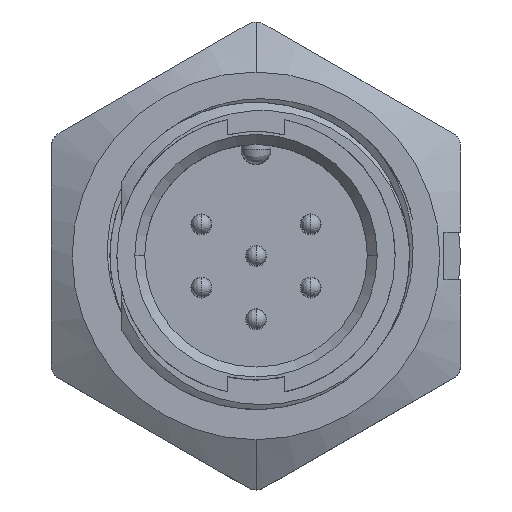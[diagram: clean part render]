
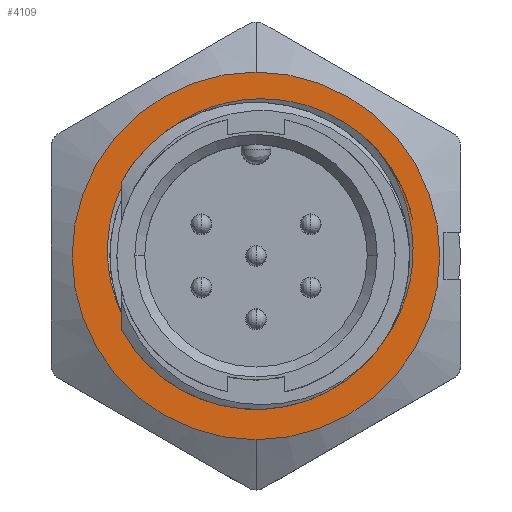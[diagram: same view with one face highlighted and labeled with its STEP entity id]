
A CAD part, top view. The second image highlights one B-rep face of the part: STEP entity #4109.
In plain terms, the highlighted planar face has unit normal (0, 0, 1).
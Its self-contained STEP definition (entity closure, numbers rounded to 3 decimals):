
#54 = CARTESIAN_POINT ( 'NONE',  ( 7.879, 1.35, -6.1 ) ) ;
#93 = VERTEX_POINT ( 'NONE', #1977 ) ;
#278 = CARTESIAN_POINT ( 'NONE',  ( 7.706, 2.251, -6.1 ) ) ;
#323 = EDGE_CURVE ( 'NONE', #93, #13420, #11059, .T. ) ;
#357 = CARTESIAN_POINT ( 'NONE',  ( 7.06, 3.95, -6.1 ) ) ;
#375 = DIRECTION ( 'NONE',  ( 0., 0., 1. ) ) ;
#493 = ORIENTED_EDGE ( 'NONE', *, *, #11031, .F. ) ;
#907 = ORIENTED_EDGE ( 'NONE', *, *, #323, .F. ) ;
#1079 = CARTESIAN_POINT ( 'NONE',  ( -7.483, 1.038, -6.1 ) ) ;
#1114 = CARTESIAN_POINT ( 'NONE',  ( -5.32, -5.077, -6.1 ) ) ;
#1188 = CARTESIAN_POINT ( 'NONE',  ( -3.938, -6.207, -6.1 ) ) ;
#1193 = CARTESIAN_POINT ( 'NONE',  ( 7.228, -3.031, -6.1 ) ) ;
#1344 = CARTESIAN_POINT ( 'NONE',  ( 7.921, -0.448, -6.1 ) ) ;
#1355 = EDGE_LOOP ( 'NONE', ( #10742, #493 ) ) ;
#1468 = CARTESIAN_POINT ( 'NONE',  ( -7.521, 0.176, -6.1 ) ) ;
#1551 = CARTESIAN_POINT ( 'NONE',  ( -7.058, -2.317, -6.1 ) ) ;
#1830 = EDGE_LOOP ( 'NONE', ( #11164, #3121, #1858, #907 ) ) ;
#1858 = ORIENTED_EDGE ( 'NONE', *, *, #12887, .T. ) ;
#1962 = DIRECTION ( 'NONE',  ( 1., 0., 0. ) ) ;
#1977 = CARTESIAN_POINT ( 'NONE',  ( -2.967, -6.725, -6.1 ) ) ;
#2248 = CARTESIAN_POINT ( 'NONE',  ( 5.992, 5.451, -6.1 ) ) ;
#2669 = CARTESIAN_POINT ( 'NONE',  ( 5.732, -5.207, -6.1 ) ) ;
#3044 = CARTESIAN_POINT ( 'NONE',  ( 0., 0., -6.1 ) ) ;
#3107 = CARTESIAN_POINT ( 'NONE',  ( 5.468, 5.983, -6.1 ) ) ;
#3121 = ORIENTED_EDGE ( 'NONE', *, *, #10723, .F. ) ;
#3247 = CARTESIAN_POINT ( 'NONE',  ( 3.849, 7.115, -6.1 ) ) ;
#3325 = CARTESIAN_POINT ( 'NONE',  ( 2.14, 7.737, -6.1 ) ) ;
#3384 = DIRECTION ( 'NONE',  ( -1., 0., 0. ) ) ;
#3402 = CARTESIAN_POINT ( 'NONE',  ( -1.455, 7.766, -6.1 ) ) ;
#3441 = CARTESIAN_POINT ( 'NONE',  ( -4.029, -6.148, -6.1 ) ) ;
#3524 = CARTESIAN_POINT ( 'NONE',  ( -4.494, -5.834, -6.1 ) ) ;
#3598 = CARTESIAN_POINT ( 'NONE',  ( -5.759, -4.569, -6.1 ) ) ;
#3765 = VERTEX_POINT ( 'NONE', #11357 ) ;
#3911 = CARTESIAN_POINT ( 'NONE',  ( 7.786, -1.344, -6.1 ) ) ;
#4109 = ADVANCED_FACE ( 'NONE', ( #12138, #10977 ), #6252, .T. ) ;
#4211 = CARTESIAN_POINT ( 'NONE',  ( 5.797, 5.667, -6.1 ) ) ;
#4359 = CARTESIAN_POINT ( 'NONE',  ( 5.899, 5.559, -6.1 ) ) ;
#4566 = CARTESIAN_POINT ( 'NONE',  ( -5.876, 4.994, -6.1 ) ) ;
#4603 = CARTESIAN_POINT ( 'NONE',  ( -3.465, -6.489, -6.1 ) ) ;
#5363 = CARTESIAN_POINT ( 'NONE',  ( 5.576, 5.885, -6.1 ) ) ;
#5837 = CARTESIAN_POINT ( 'NONE',  ( -6.279, -3.846, -6.1 ) ) ;
#5907 = DIRECTION ( 'NONE',  ( 0., 0., -1. ) ) ;
#5919 = CARTESIAN_POINT ( 'NONE',  ( -3.75, -6.322, -6.1 ) ) ;
#5924 = CARTESIAN_POINT ( 'NONE',  ( 0.283, -7.518, -6.1 ) ) ;
#6233 = CARTESIAN_POINT ( 'NONE',  ( 5.992, 5.451, -6.1 ) ) ;
#6252 = PLANE ( 'NONE',  #6634 ) ;
#6267 = CARTESIAN_POINT ( 'NONE',  ( -6.682, -3.063, -6.1 ) ) ;
#6360 = CARTESIAN_POINT ( 'NONE',  ( 5.365, 6.07, -6.1 ) ) ;
#6486 = EDGE_CURVE ( 'NONE', #3765, #12431, #11108, .T. ) ;
#6529 = CARTESIAN_POINT ( 'NONE',  ( 5.365, 6.07, -6.1 ) ) ;
#6634 = AXIS2_PLACEMENT_3D ( 'NONE', #3044, #375, #1962 ) ;
#6887 = CARTESIAN_POINT ( 'NONE',  ( 1.237, 7.899, -6.1 ) ) ;
#7080 = CARTESIAN_POINT ( 'NONE',  ( -5.548, -4.83, -6.1 ) ) ;
#7126 = AXIS2_PLACEMENT_3D ( 'NONE', #12824, #8022, #3384 ) ;
#7233 = CARTESIAN_POINT ( 'NONE',  ( 3.618, -6.74, -6.1 ) ) ;
#7472 = CARTESIAN_POINT ( 'NONE',  ( 1.145, -7.467, -6.1 ) ) ;
#8022 = DIRECTION ( 'NONE',  ( 0., 0., -1. ) ) ;
#8120 = CARTESIAN_POINT ( 'NONE',  ( -7.119, 2.711, -6.1 ) ) ;
#8232 = CARTESIAN_POINT ( 'NONE',  ( -6.682, -3.063, -6.1 ) ) ;
#8307 = CARTESIAN_POINT ( 'NONE',  ( -3.169, -6.635, -6.1 ) ) ;
#8468 = CARTESIAN_POINT ( 'NONE',  ( -2.967, -6.725, -6.1 ) ) ;
#8916 = CARTESIAN_POINT ( 'NONE',  ( 5.992, 5.451, -6.1 ) ) ;
#9282 = CARTESIAN_POINT ( 'NONE',  ( -6.791, 3.521, -6.1 ) ) ;
#9715 = CARTESIAN_POINT ( 'NONE',  ( -2.216, -7.089, -6.1 ) ) ;
#10386 = B_SPLINE_CURVE_WITH_KNOTS ( 'NONE', 3,
 ( #13846, #13918, #3247, #3325, #6887, #11614, #3402, #10451, #11687, #15160, #4566, #9282, #8120, #1079, #1468, #13141, #1551, #6267 ),
 .UNSPECIFIED., .F., .F.,
 ( 4, 2, 2, 2, 2, 2, 2, 2, 4 ),
 ( 0., 0.125, 0.25, 0.375, 0.5, 0.625, 0.75, 0.875, 1. ),
 .UNSPECIFIED. ) ;
#10451 = CARTESIAN_POINT ( 'NONE',  ( -3.134, 7.185, -6.1 ) ) ;
#10545 = VERTEX_POINT ( 'NONE', #6360 ) ;
#10631 = DIRECTION ( 'NONE',  ( -1., 0., 0. ) ) ;
#10644 = CARTESIAN_POINT ( 'NONE',  ( -1.397, -7.328, -6.1 ) ) ;
#10723 = EDGE_CURVE ( 'NONE', #10545, #12127, #10386, .T. ) ;
#10742 = ORIENTED_EDGE ( 'NONE', *, *, #6486, .F. ) ;
#10961 = CARTESIAN_POINT ( 'NONE',  ( 6.808, -3.822, -6.1 ) ) ;
#10977 = FACE_OUTER_BOUND ( 'NONE', #1355, .T. ) ;
#11031 = EDGE_CURVE ( 'NONE', #12431, #3765, #14535, .T. ) ;
#11059 = B_SPLINE_CURVE_WITH_KNOTS ( 'NONE', 3,
 ( #8468, #9715, #10644, #5924, #7472, #13258, #7233, #12037, #2669, #10961, #1193, #3911, #1344, #54, #278, #357, #12118, #6233 ),
 .UNSPECIFIED., .F., .F.,
 ( 4, 2, 2, 2, 2, 2, 2, 2, 4 ),
 ( 0., 0.125, 0.25, 0.375, 0.5, 0.625, 0.75, 0.875, 1. ),
 .UNSPECIFIED. ) ;
#11108 = CIRCLE ( 'NONE', #13805, 9.25 ) ;
#11164 = ORIENTED_EDGE ( 'NONE', *, *, #12726, .T. ) ;
#11357 = CARTESIAN_POINT ( 'NONE',  ( 0., -9.25, -6.1 ) ) ;
#11614 = CARTESIAN_POINT ( 'NONE',  ( -0.561, 7.913, -6.1 ) ) ;
#11687 = CARTESIAN_POINT ( 'NONE',  ( -3.918, 6.752, -6.1 ) ) ;
#11797 = CARTESIAN_POINT ( 'NONE',  ( -2.967, -6.725, -6.1 ) ) ;
#11880 = CARTESIAN_POINT ( 'NONE',  ( -5.963, -4.299, -6.1 ) ) ;
#12037 = CARTESIAN_POINT ( 'NONE',  ( 5.077, -5.803, -6.1 ) ) ;
#12118 = CARTESIAN_POINT ( 'NONE',  ( 6.588, 4.749, -6.1 ) ) ;
#12127 = VERTEX_POINT ( 'NONE', #12507 ) ;
#12138 = FACE_BOUND ( 'NONE', #1830, .T. ) ;
#12431 = VERTEX_POINT ( 'NONE', #13725 ) ;
#12507 = CARTESIAN_POINT ( 'NONE',  ( -6.682, -3.063, -6.1 ) ) ;
#12726 = EDGE_CURVE ( 'NONE', #93, #12127, #12941, .T. ) ;
#12824 = CARTESIAN_POINT ( 'NONE',  ( 0., 0., -6.1 ) ) ;
#12887 = EDGE_CURVE ( 'NONE', #10545, #13420, #13497, .T. ) ;
#12941 = B_SPLINE_CURVE_WITH_KNOTS ( 'NONE', 3,
 ( #11797, #8307, #4603, #5919, #1188, #3441, #3524, #14189, #1114, #7080, #3598, #13023, #11880, #5837, #12953, #8232 ),
 .UNSPECIFIED., .F., .F.,
 ( 4, 1, 2, 2, 2, 1, 2, 2, 4 ),
 ( 0., 0.125, 0.188, 0.25, 0.5, 0.625, 0.688, 0.75, 1. ),
 .UNSPECIFIED. ) ;
#12943 = CARTESIAN_POINT ( 'NONE',  ( 0., 0., -6.1 ) ) ;
#12953 = CARTESIAN_POINT ( 'NONE',  ( -6.497, -3.464, -6.1 ) ) ;
#13023 = CARTESIAN_POINT ( 'NONE',  ( -5.895, -4.391, -6.1 ) ) ;
#13141 = CARTESIAN_POINT ( 'NONE',  ( -7.308, -1.502, -6.1 ) ) ;
#13258 = CARTESIAN_POINT ( 'NONE',  ( 2.813, -7.078, -6.1 ) ) ;
#13420 = VERTEX_POINT ( 'NONE', #2248 ) ;
#13497 = B_SPLINE_CURVE_WITH_KNOTS ( 'NONE', 3,
 ( #6529, #3107, #5363, #4211, #4359, #8916 ),
 .UNSPECIFIED., .F., .F.,
 ( 4, 2, 4 ),
 ( 0., 0.5, 1. ),
 .UNSPECIFIED. ) ;
#13725 = CARTESIAN_POINT ( 'NONE',  ( 0., 9.25, -6.1 ) ) ;
#13805 = AXIS2_PLACEMENT_3D ( 'NONE', #12943, #5907, #10631 ) ;
#13846 = CARTESIAN_POINT ( 'NONE',  ( 5.365, 6.07, -6.1 ) ) ;
#13918 = CARTESIAN_POINT ( 'NONE',  ( 4.655, 6.655, -6.1 ) ) ;
#14189 = CARTESIAN_POINT ( 'NONE',  ( -4.84, -5.549, -6.1 ) ) ;
#14535 = CIRCLE ( 'NONE', #7126, 9.25 ) ;
#15160 = CARTESIAN_POINT ( 'NONE',  ( -5.289, 5.656, -6.1 ) ) ;
